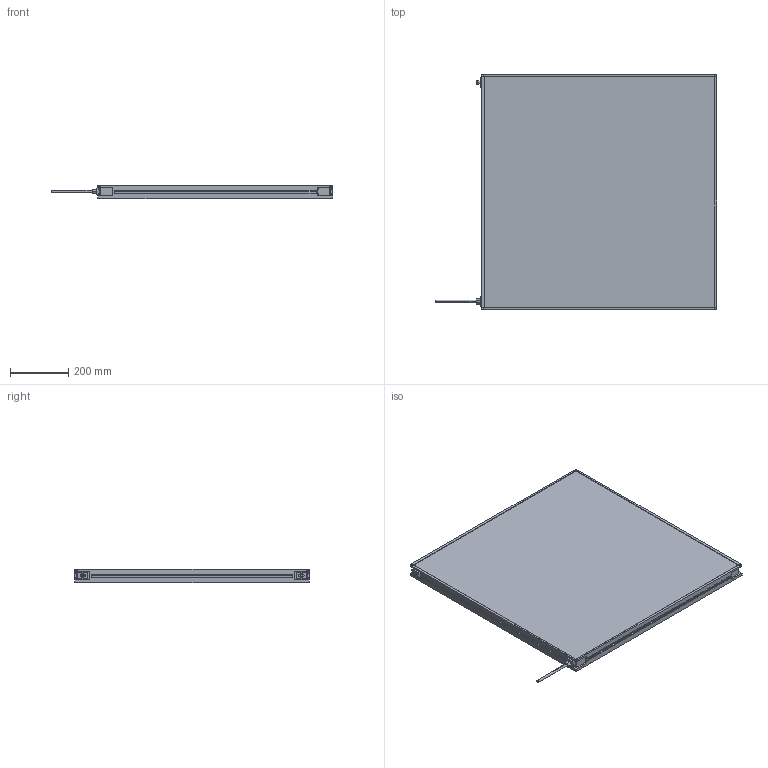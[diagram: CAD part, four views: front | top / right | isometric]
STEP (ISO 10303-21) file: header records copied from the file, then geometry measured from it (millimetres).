
FILE_DESCRIPTION (( 'STEP AP214' ), '1' );
FILE_NAME ('MBACK-xxxx-xxx-M1A2_CLIENT800x800.STEP', '2022-04-01T11:52:07', ( '' ), ( '' ), 'SwSTEP 2.0', 'SolidWorks 2020', '' );
FILE_SCHEMA (( 'AUTOMOTIVE_DESIGN' ));
Length unit declared in the file: millimetre
Products named in the file (1): MBACK-xxxx-xxx-M1A2_CLIENT800x800
Bounding box: 967.4 x 808 x 45.5 mm (x, y, z)
Volume: 27203096.9 mm3; surface area: 1526321.1 mm2
Topology: 1 solids, 1 shells, 470 faces, 1210 edges, 804 vertices
Faces by surface type: plane 265, cylinder 117, bspline 80, cone 8
Entity records: 18046 total; most frequent: CARTESIAN_POINT 6837, ORIENTED_EDGE 2420, DIRECTION 2082, EDGE_CURVE 1210, VERTEX_POINT 804, VECTOR 800, LINE 800, AXIS2_PLACEMENT_3D 641
